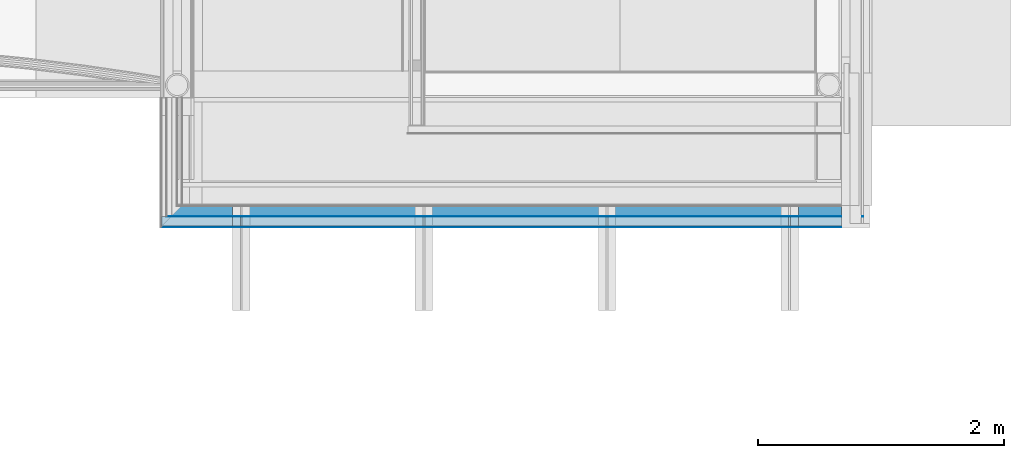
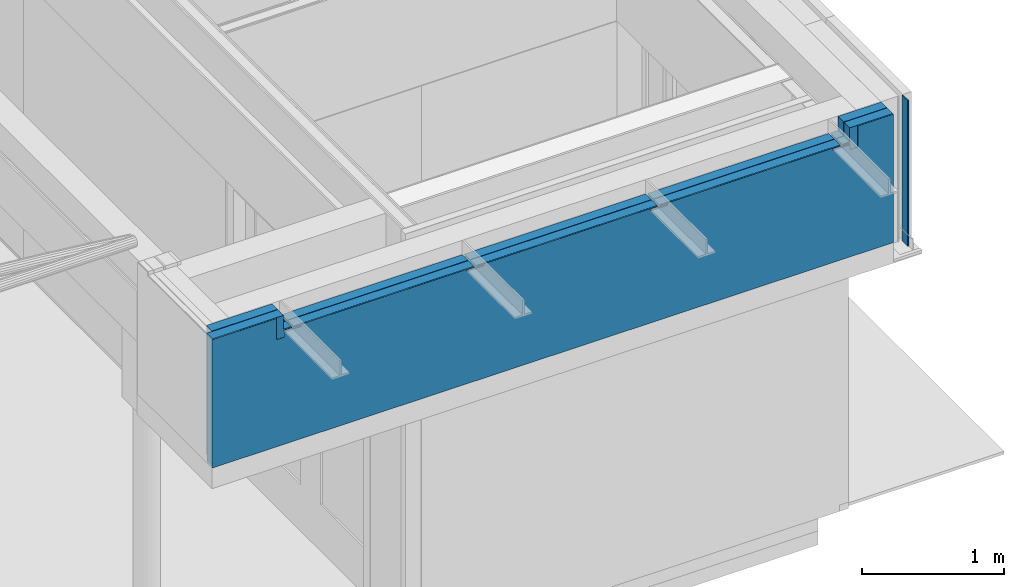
# One storey, part 63 of 165: 4 building element parts, 1 element without a shape of its own.
"""IFC2X3 building model written with IfcOpenShell, lengths in millimetres."""

from ifc_helpers import new_model, entity, si_unit, converted_unit, derived_unit, money_unit, direction, frame, origin_with_axes, place, context, subcontext, project, spatial, faceted_brep, material, type_object, element, aggregate, save


model = new_model("IFC2X3")

# Units and contexts
model_context = context("Model", 3, precision=0.01, world=origin_with_axes(), true_north=direction((0.0, 1.0)))
body_context = subcontext(model_context, "Body", "Model", "MODEL_VIEW")
ifc_project = project(units=[si_unit("LENGTHUNIT", "METRE", prefix="MILLI"), si_unit("AREAUNIT", "SQUARE_METRE"), si_unit("VOLUMEUNIT", "CUBIC_METRE"), converted_unit("PLANEANGLEUNIT", "DEGREE", entity("IfcPlaneAngleMeasure", 0.0174532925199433), si_unit("PLANEANGLEUNIT", "RADIAN"), dimensions=[0, 0, 0, 0, 0, 0, 0]), money_unit("EUR"), converted_unit("TIMEUNIT", "Year", entity("IfcTimeMeasure", 31556926.0), si_unit("TIMEUNIT", "SECOND"), dimensions=[0, 0, 1, 0, 0, 0, 0]), si_unit("MASSUNIT", "GRAM", prefix="KILO"), si_unit("THERMODYNAMICTEMPERATUREUNIT", "DEGREE_CELSIUS"), si_unit("LUMINOUSINTENSITYUNIT", "LUMEN"), si_unit("ENERGYUNIT", "JOULE", prefix="MEGA"), derived_unit("THERMALCONDUCTANCEUNIT", [(si_unit("POWERUNIT", "WATT"), 1), (si_unit("LENGTHUNIT", "METRE"), -1), (si_unit("THERMODYNAMICTEMPERATUREUNIT", "KELVIN"), -1)]), derived_unit("SPECIFICHEATCAPACITYUNIT", [(si_unit("ENERGYUNIT", "JOULE"), 1), (si_unit("MASSUNIT", "GRAM", prefix="KILO"), -1), (si_unit("THERMODYNAMICTEMPERATUREUNIT", "KELVIN"), -1)]), derived_unit("MASSDENSITYUNIT", [(si_unit("MASSUNIT", "GRAM", prefix="KILO"), 1), (si_unit("VOLUMEUNIT", "CUBIC_METRE"), -1)])], contexts=[model_context])

# Site, building, storey
site_placement = place(None, origin_with_axes())
site = spatial("IfcSite", under=ifc_project, at=site_placement, Name="Site", CompositionType="ELEMENT")
building_placement = place(site_placement, origin_with_axes())
building = spatial("IfcBuilding", under=site, at=building_placement, Name="Naam gebouw", CompositionType="ELEMENT")
storey_placement = place(building_placement, origin_with_axes())
storey = spatial("IfcBuildingStorey", under=building, at=storey_placement, Name="Begane grond", CompositionType="ELEMENT", Elevation=0.0)

# Wall, building element parts
wall_type = type_object("IfcWallType", Name="21 STO Buitengevelisolatie 160 390", PredefinedType="NOTDEFINED")
wall_placement = place(storey_placement, frame((29899.99999999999, 3599.999999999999, 2610.0), z_axis=(0.0, 0.0, 1.0), x_axis=(-1.0, 0.0, 0.0)))
wall = element("IfcWall", 1, at=wall_placement, inside=storey, type_object=wall_type, Name="21_Wand-x")
ifc_material_1 = material(Name="STO pleisterlaag")
building_element_part_1_placement = place(wall_placement, origin_with_axes())
building_element_part_1 = element("IfcBuildingElementPart", 2, at=building_element_part_1_placement, material=ifc_material_1, Name="STO pleisterlaag", context=body_context, shape_type="Brep", body=[
    faceted_brep([(0.0, 175.9999999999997, 1249.999999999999), (-2.235182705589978e-06, 176.0000000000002, 145.9999999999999), (-2.235182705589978e-06, 173.0000000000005, 145.9999999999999), (0.0, 172.9999967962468, 1249.999999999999), (5536.000960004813, 176.0000000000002, 1249.999999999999), (5536.001228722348, 176.0000000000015, 145.9999999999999), (286.999821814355, 176.0000000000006, 1249.999999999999), (286.999821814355, 176.0000000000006, 1067.0), (349.9998218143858, 176.0000000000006, 1067.0), (350.0000000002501, 176.0000000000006, 1110.000000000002), (490.0000000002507, 176.0000000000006, 1110.000000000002), (490.0000000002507, 176.0000000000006, 1125.000000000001), (427.5000000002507, 176.0000000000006, 1125.000000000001), (427.5000000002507, 176.0000000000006, 1130.0), (1897.50000000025, 176.0000000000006, 1130.0), (1897.50000000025, 176.0000000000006, 1125.000000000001), (1835.00000000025, 176.0000000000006, 1125.000000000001), (1835.00000000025, 176.0000000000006, 1110.000000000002), (1975.00000000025, 176.0000000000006, 1110.000000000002), (1975.00000000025, 176.0000000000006, 1125.000000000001), (1912.50000000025, 176.0000000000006, 1125.000000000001), (1912.50000000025, 176.0000000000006, 1130.0), (3387.500961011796, 176.0000000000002, 1130.0), (3387.500961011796, 176.0000000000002, 1125.000000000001), (3325.000961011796, 176.0000000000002, 1125.000000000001), (3325.000961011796, 176.0000000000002, 1110.000000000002), (3465.000961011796, 176.0000000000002, 1110.000000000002), (3465.000961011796, 176.0000000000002, 1125.000000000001), (3402.500961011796, 176.0000000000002, 1125.000000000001), (3402.500961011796, 176.0000000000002, 1130.0), (4872.500960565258, 176.0000000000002, 1130.0), (4872.500960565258, 176.0000000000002, 1125.000000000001), (4810.000960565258, 176.0000000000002, 1125.000000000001), (4810.000960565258, 176.0000000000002, 1110.000000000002), (4950.000960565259, 176.0000000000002, 1110.000000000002), (4950.000960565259, 176.0000000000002, 1067.0), (5013.000960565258, 176.0000000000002, 1067.0), (5013.000960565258, 176.0000000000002, 1249.999999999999), (5536.001228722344, 173.0000000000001, 145.9999999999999), (5533.001228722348, 173.0000000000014, 145.9999999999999), (5536.000960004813, 173.0000000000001, 1249.999999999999), (5013.000960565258, 173.0000000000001, 1249.999999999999), (5013.000960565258, 173.0000000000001, 1067.0), (4950.000960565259, 173.0000000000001, 1067.0), (4950.000960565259, 173.0000000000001, 1110.000000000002), (4810.000960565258, 173.0000000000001, 1110.000000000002), (4810.000960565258, 173.0000000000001, 1125.000000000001), (4872.500960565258, 173.0000000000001, 1125.000000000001), (4872.500960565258, 173.0000000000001, 1130.0), (3402.500961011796, 173.0000000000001, 1130.0), (3402.500961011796, 173.0000000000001, 1125.000000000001), (3465.000961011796, 173.0000000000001, 1125.000000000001), (3465.000961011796, 173.0000000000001, 1110.000000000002), (3325.000961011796, 173.0000000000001, 1110.000000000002), (3325.000961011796, 173.0000000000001, 1125.000000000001), (3387.500961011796, 173.0000000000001, 1125.000000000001), (3387.500961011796, 173.0000000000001, 1130.0), (1912.50000000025, 173.0000000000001, 1130.0), (1912.50000000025, 173.0000000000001, 1125.000000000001), (1975.00000000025, 173.0000000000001, 1125.000000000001), (1975.00000000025, 173.0000000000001, 1110.000000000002), (1835.00000000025, 173.0000000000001, 1110.000000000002), (1835.00000000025, 173.0000000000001, 1125.000000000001), (1897.50000000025, 173.0000000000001, 1125.000000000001), (1897.50000000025, 173.0000000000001, 1130.0), (427.5000000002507, 173.0000000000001, 1130.0), (427.5000000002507, 173.0000000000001, 1125.000000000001), (490.0000000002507, 173.0000000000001, 1125.000000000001), (490.0000000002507, 173.0000000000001, 1110.000000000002), (350.0000000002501, 173.0000000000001, 1110.000000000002), (349.9998248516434, 173.0000000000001, 1067.0), (286.9998248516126, 173.0000000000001, 1067.0), (286.9998248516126, 173.0000000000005, 1249.999999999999)], [[[0, 1, 2, 3]], [[4, 5, 1, 0, 6, 7, 8, 9, 10, 11, 12, 13, 14, 15, 16, 17, 18, 19, 20, 21, 22, 23, 24, 25, 26, 27, 28, 29, 30, 31, 32, 33, 34, 35, 36, 37]], [[38, 39, 2, 1, 5]], [[3, 2, 39, 38, 40, 41, 42, 43, 44, 45, 46, 47, 48, 49, 50, 51, 52, 53, 54, 55, 56, 57, 58, 59, 60, 61, 62, 63, 64, 65, 66, 67, 68, 69, 70, 71, 72]], [[3, 72, 6, 0]], [[4, 40, 38, 5]], [[71, 7, 6, 72]], [[70, 8, 7, 71]], [[69, 9, 8, 70]], [[9, 69, 68, 10]], [[68, 67, 11, 10]], [[67, 66, 12, 11]], [[66, 65, 13, 12]], [[13, 65, 64, 14]], [[14, 64, 63, 15]], [[63, 62, 16, 15]], [[62, 61, 17, 16]], [[61, 60, 18, 17]], [[60, 59, 19, 18]], [[59, 58, 20, 19]], [[58, 57, 21, 20]], [[56, 22, 21, 57]], [[22, 56, 55, 23]], [[55, 54, 24, 23]], [[54, 53, 25, 24]], [[53, 52, 26, 25]], [[52, 51, 27, 26]], [[51, 50, 28, 27]], [[50, 49, 29, 28]], [[48, 30, 29, 49]], [[30, 48, 47, 31]], [[47, 46, 32, 31]], [[46, 45, 33, 32]], [[45, 44, 34, 33]], [[34, 44, 43, 35]], [[36, 35, 43, 42]], [[37, 36, 42, 41]], [[40, 4, 37, 41]]]),
    faceted_brep([(4887.500960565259, 176.0000000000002, 1130.0), (4887.500960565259, 173.0000000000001, 1130.0), (4950.000960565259, 173.0000000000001, 1130.0), (4950.000960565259, 176.0000000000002, 1130.0), (4887.500960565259, 173.0000000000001, 1125.000000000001), (4887.500960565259, 176.0000000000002, 1125.000000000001), (4950.000960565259, 173.0000000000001, 1125.000000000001), (4950.000960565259, 176.0000000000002, 1125.000000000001)], [[[0, 1, 2, 3]], [[4, 1, 0, 5]], [[4, 6, 2, 1]], [[6, 7, 3, 2]], [[5, 0, 3, 7]], [[6, 4, 5, 7]]]),
    faceted_brep([(350.0000000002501, 176.0000000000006, 1125.000000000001), (350.0000000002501, 173.0000000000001, 1125.000000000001), (350.0000000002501, 173.0000000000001, 1130.0), (350.0000000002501, 176.0000000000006, 1130.0), (412.5000000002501, 173.0000000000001, 1125.000000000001), (412.5000000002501, 176.0000000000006, 1125.000000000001), (412.5000000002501, 173.0000000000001, 1130.0), (412.5000000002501, 176.0000000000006, 1130.0)], [[[0, 1, 2, 3]], [[4, 1, 0, 5]], [[4, 6, 2, 1]], [[6, 7, 3, 2]], [[5, 0, 3, 7]], [[7, 6, 4, 5]]]),
])
ifc_material_2 = material(Name="STO lijmlaag")
building_element_part_2_placement = place(wall_placement, origin_with_axes())
building_element_part_2 = element("IfcBuildingElementPart", 3, at=building_element_part_2_placement, material=ifc_material_2, Name="STO lijmlaag", context=body_context, shape_type="Brep", body=[
    faceted_brep([(0.0, 87.99999850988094, 1250.0), (-2.235182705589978e-06, 88.00000107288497, 145.9999999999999), (-2.235182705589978e-06, 84.00000000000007, 145.9999999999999), (0.0, 83.99999776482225, 1250.0), (5488.000960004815, 88.00000000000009, 145.9999999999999), (5448.001229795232, 88.00000107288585, 145.9999999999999), (350.0000000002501, 88.00000000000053, 1250.0), (350.0000000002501, 88.00000000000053, 1130.0), (412.5000000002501, 88.00000000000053, 1130.0), (412.5000000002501, 88.00000000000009, 1125.000000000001), (350.0000000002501, 88.00000000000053, 1125.000000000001), (350.0000000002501, 88.00000000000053, 1110.000000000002), (490.0000000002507, 88.00000000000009, 1110.000000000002), (490.0000000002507, 88.00000000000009, 1125.000000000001), (427.5000000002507, 88.00000000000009, 1125.000000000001), (427.5000000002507, 88.00000000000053, 1130.0), (1897.50000000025, 88.00000000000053, 1130.0), (1897.50000000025, 88.00000000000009, 1125.000000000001), (1835.00000000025, 88.00000000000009, 1125.000000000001), (1835.00000000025, 88.00000000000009, 1110.000000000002), (1975.00000000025, 88.00000000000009, 1110.000000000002), (1975.00000000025, 88.00000000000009, 1125.000000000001), (1912.50000000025, 88.00000000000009, 1125.000000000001), (1912.50000000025, 88.00000000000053, 1130.0), (3387.500961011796, 88.00000000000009, 1130.0), (3387.500961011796, 88.00000000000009, 1125.000000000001), (3325.000961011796, 88.00000000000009, 1125.000000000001), (3325.000961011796, 88.00000000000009, 1110.000000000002), (3465.000961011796, 88.00000000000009, 1110.000000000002), (3465.000961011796, 88.00000000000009, 1125.000000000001), (3402.500961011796, 88.00000000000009, 1125.000000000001), (3402.500961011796, 88.00000000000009, 1130.0), (4872.500960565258, 88.00000000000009, 1130.0), (4872.500960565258, 88.00000000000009, 1125.000000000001), (4810.000960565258, 88.00000000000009, 1125.000000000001), (4810.000960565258, 88.00000000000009, 1110.000000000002), (4950.000960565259, 88.00000000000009, 1110.000000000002), (4950.000960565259, 88.00000000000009, 1125.000000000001), (4887.500960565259, 88.00000000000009, 1125.000000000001), (4887.500960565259, 88.00000000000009, 1130.0), (4950.000960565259, 88.00000000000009, 1130.0), (4950.000960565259, 88.00000000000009, 1250.0), (5488.000960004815, 88.00000000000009, 1249.999999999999), (5488.000960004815, 84.00000000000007, 145.9999999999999), (5444.001228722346, 84.0000000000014, 145.9999999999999), (5488.000960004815, 84.00000000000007, 1249.999999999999), (4950.000960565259, 84.00000000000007, 1250.0), (4950.000960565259, 84.00000000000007, 1130.0), (4887.500960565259, 84.00000000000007, 1130.0), (4887.500960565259, 84.00000000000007, 1125.000000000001), (4950.000960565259, 84.00000000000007, 1125.000000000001), (4950.000960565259, 84.00000000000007, 1110.000000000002), (4810.000960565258, 84.00000000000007, 1110.000000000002), (4810.000960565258, 84.00000000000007, 1125.000000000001), (4872.500960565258, 84.00000000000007, 1125.000000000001), (4872.500960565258, 84.00000000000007, 1130.0), (3402.500961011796, 84.00000000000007, 1130.0), (3402.500961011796, 84.00000000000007, 1125.000000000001), (3465.000961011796, 84.00000000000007, 1125.000000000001), (3465.000961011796, 84.00000000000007, 1110.000000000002), (3325.000961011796, 84.00000000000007, 1110.000000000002), (3325.000961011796, 84.00000000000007, 1125.000000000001), (3387.500961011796, 84.00000000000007, 1125.000000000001), (3387.500961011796, 84.00000000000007, 1130.0), (1912.50000000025, 84.00000000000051, 1130.0), (1912.50000000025, 84.00000000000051, 1125.000000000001), (1975.00000000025, 84.00000000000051, 1125.000000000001), (1975.00000000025, 84.00000000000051, 1110.000000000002), (1835.00000000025, 84.00000000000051, 1110.000000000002), (1835.00000000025, 84.00000000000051, 1125.000000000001), (1897.50000000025, 84.00000000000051, 1125.000000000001), (1897.50000000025, 84.00000000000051, 1130.0), (427.5000000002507, 84.00000000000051, 1130.0), (427.5000000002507, 84.00000000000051, 1125.000000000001), (490.0000000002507, 84.00000000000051, 1125.000000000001), (490.0000000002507, 84.00000000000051, 1110.000000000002), (350.0000000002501, 84.00000000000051, 1110.000000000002), (350.0000000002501, 84.00000000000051, 1125.000000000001), (412.5000000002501, 84.00000000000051, 1125.000000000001), (412.5000000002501, 84.00000000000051, 1130.0), (350.0000000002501, 84.00000000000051, 1130.0), (350.0000000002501, 84.00000000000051, 1250.0)], [[[0, 1, 2, 3]], [[4, 5, 1, 0, 6, 7, 8, 9, 10, 11, 12, 13, 14, 15, 16, 17, 18, 19, 20, 21, 22, 23, 24, 25, 26, 27, 28, 29, 30, 31, 32, 33, 34, 35, 36, 37, 38, 39, 40, 41, 42]], [[43, 44, 2, 1, 5, 4]], [[3, 2, 44, 43, 45, 46, 47, 48, 49, 50, 51, 52, 53, 54, 55, 56, 57, 58, 59, 60, 61, 62, 63, 64, 65, 66, 67, 68, 69, 70, 71, 72, 73, 74, 75, 76, 77, 78, 79, 80, 81]], [[3, 81, 6, 0]], [[81, 80, 7, 6]], [[80, 79, 8, 7]], [[79, 78, 9, 8]], [[78, 77, 10, 9]], [[77, 76, 11, 10]], [[11, 76, 75, 12]], [[75, 74, 13, 12]], [[73, 14, 13, 74]], [[73, 72, 15, 14]], [[15, 72, 71, 16]], [[71, 70, 17, 16]], [[70, 69, 18, 17]], [[69, 68, 19, 18]], [[68, 67, 20, 19]], [[67, 66, 21, 20]], [[66, 65, 22, 21]], [[65, 64, 23, 22]], [[64, 63, 24, 23]], [[25, 24, 63, 62]], [[26, 25, 62, 61]], [[61, 60, 27, 26]], [[60, 59, 28, 27]], [[59, 58, 29, 28]], [[58, 57, 30, 29]], [[57, 56, 31, 30]], [[31, 56, 55, 32]], [[55, 54, 33, 32]], [[53, 34, 33, 54]], [[53, 52, 35, 34]], [[35, 52, 51, 36]], [[51, 50, 37, 36]], [[50, 49, 38, 37]], [[49, 48, 39, 38]], [[48, 47, 40, 39]], [[47, 46, 41, 40]], [[46, 45, 42, 41]], [[45, 43, 4, 42]]]),
    faceted_brep([(-169.9999999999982, 87.99999850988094, 1250.0), (-179.9999999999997, 87.99999737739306, 1250.0), (-179.9999999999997, 83.99999804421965, 1249.999999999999), (-169.9999999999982, 83.99999776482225, 1249.999999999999), (-169.9999999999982, 87.99999850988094, 1.203278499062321e-05), (-179.9999999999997, 87.99999737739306, 1.203278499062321e-05), (-179.9999999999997, 83.99999804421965, 1.203278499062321e-05), (-169.9999999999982, 83.99999776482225, 1.203278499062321e-05)], [[[0, 1, 2, 3]], [[4, 5, 1, 0]], [[5, 6, 2, 1]], [[3, 2, 6, 7]], [[4, 0, 3, 7]], [[7, 6, 5, 4]]]),
])
ifc_material_3 = material(Name="Isolatie - STO EPS")
building_element_part_3_placement = place(wall_placement, origin_with_axes())
building_element_part_3 = element("IfcBuildingElementPart", 4, at=building_element_part_3_placement, material=ifc_material_3, Name="Isolatie - STO EPS", context=body_context, shape_type="Brep", body=[
    faceted_brep([(0.0, 167.9999995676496, 1249.999999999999), (-2.235182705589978e-06, 168.0000000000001, 145.9999999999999), (-2.235182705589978e-06, 87.99999999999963, 145.9999999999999), (0.0, 87.99999884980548, 1250.0), (5528.000960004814, 168.0000000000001, 1249.999999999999), (5528.001228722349, 168.0000000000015, 145.9999999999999), (350.0000000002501, 168.0000000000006, 1250.0), (350.0000000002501, 168.0000000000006, 1130.0), (412.5000000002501, 168.0000000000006, 1130.0), (412.5000000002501, 168.0000000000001, 1125.000000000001), (350.0000000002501, 168.0000000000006, 1125.000000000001), (350.0000000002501, 168.0000000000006, 1110.000000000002), (490.0000000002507, 168.0000000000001, 1110.000000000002), (490.0000000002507, 168.0000000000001, 1125.000000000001), (427.5000000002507, 168.0000000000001, 1125.000000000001), (427.5000000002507, 168.0000000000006, 1130.0), (1897.50000000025, 168.0000000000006, 1130.0), (1897.50000000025, 168.0000000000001, 1125.000000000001), (1835.00000000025, 168.0000000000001, 1125.000000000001), (1835.00000000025, 168.0000000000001, 1110.000000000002), (1975.00000000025, 168.0000000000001, 1110.000000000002), (1975.00000000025, 168.0000000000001, 1125.000000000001), (1912.50000000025, 168.0000000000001, 1125.000000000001), (1912.50000000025, 168.0000000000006, 1130.0), (3387.500961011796, 168.0000000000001, 1130.0), (3387.500961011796, 168.0000000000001, 1125.000000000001), (3325.000961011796, 168.0000000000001, 1125.000000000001), (3325.000961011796, 168.0000000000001, 1110.000000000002), (3465.000961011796, 168.0000000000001, 1110.000000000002), (3465.000961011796, 168.0000000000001, 1125.000000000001), (3402.500961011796, 168.0000000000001, 1125.000000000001), (3402.500961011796, 168.0000000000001, 1130.0), (4872.500960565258, 168.0000000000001, 1130.0), (4872.500960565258, 168.0000000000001, 1125.000000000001), (4810.000960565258, 168.0000000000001, 1125.000000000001), (4810.000960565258, 168.0000000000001, 1110.000000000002), (4950.000960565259, 168.0000000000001, 1110.000000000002), (4950.000960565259, 168.0000000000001, 1125.000000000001), (4887.500960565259, 168.0000000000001, 1125.000000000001), (4887.500960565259, 168.0000000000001, 1130.0), (4950.000960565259, 168.0000000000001, 1130.0), (4950.000960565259, 168.0000000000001, 1250.0), (5528.001228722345, 88.00000000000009, 145.9999999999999), (5448.001228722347, 88.00000000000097, 145.9999999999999), (5528.000960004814, 88.00000000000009, 1249.999999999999), (4950.000960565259, 88.00000000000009, 1250.0), (4950.000960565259, 88.00000000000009, 1130.0), (4887.500960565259, 88.00000000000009, 1130.0), (4887.500960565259, 88.00000000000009, 1125.000000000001), (4950.000960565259, 88.00000000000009, 1125.000000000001), (4950.000960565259, 88.00000000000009, 1110.000000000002), (4810.000960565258, 88.00000000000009, 1110.000000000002), (4810.000960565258, 88.00000000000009, 1125.000000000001), (4872.500960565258, 88.00000000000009, 1125.000000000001), (4872.500960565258, 88.00000000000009, 1130.0), (3402.500961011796, 88.00000000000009, 1130.0), (3402.500961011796, 88.00000000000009, 1125.000000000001), (3465.000961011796, 88.00000000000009, 1125.000000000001), (3465.000961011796, 88.00000000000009, 1110.000000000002), (3325.000961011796, 88.00000000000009, 1110.000000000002), (3325.000961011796, 88.00000000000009, 1125.000000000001), (3387.500961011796, 88.00000000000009, 1125.000000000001), (3387.500961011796, 88.00000000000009, 1130.0), (1912.50000000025, 88.00000000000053, 1130.0), (1912.50000000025, 88.00000000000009, 1125.000000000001), (1975.00000000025, 88.00000000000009, 1125.000000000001), (1975.00000000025, 88.00000000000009, 1110.000000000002), (1835.00000000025, 88.00000000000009, 1110.000000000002), (1835.00000000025, 88.00000000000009, 1125.000000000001), (1897.50000000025, 88.00000000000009, 1125.000000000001), (1897.50000000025, 88.00000000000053, 1130.0), (427.5000000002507, 88.00000000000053, 1130.0), (427.5000000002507, 88.00000000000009, 1125.000000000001), (490.0000000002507, 88.00000000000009, 1125.000000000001), (490.0000000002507, 88.00000000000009, 1110.000000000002), (350.0000000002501, 88.00000000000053, 1110.000000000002), (350.0000000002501, 88.00000000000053, 1125.000000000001), (412.5000000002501, 88.00000000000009, 1125.000000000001), (412.5000000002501, 88.00000000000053, 1130.0), (350.0000000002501, 88.00000000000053, 1130.0), (350.0000000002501, 88.00000000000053, 1250.0)], [[[0, 1, 2, 3]], [[4, 5, 1, 0, 6, 7, 8, 9, 10, 11, 12, 13, 14, 15, 16, 17, 18, 19, 20, 21, 22, 23, 24, 25, 26, 27, 28, 29, 30, 31, 32, 33, 34, 35, 36, 37, 38, 39, 40, 41]], [[42, 43, 2, 1, 5]], [[3, 2, 43, 42, 44, 45, 46, 47, 48, 49, 50, 51, 52, 53, 54, 55, 56, 57, 58, 59, 60, 61, 62, 63, 64, 65, 66, 67, 68, 69, 70, 71, 72, 73, 74, 75, 76, 77, 78, 79, 80]], [[3, 80, 6, 0]], [[4, 44, 42, 5]], [[7, 6, 80, 79]], [[78, 8, 7, 79]], [[8, 78, 77, 9]], [[77, 76, 10, 9]], [[76, 75, 11, 10]], [[75, 74, 12, 11]], [[74, 73, 13, 12]], [[73, 72, 14, 13]], [[72, 71, 15, 14]], [[15, 71, 70, 16]], [[16, 70, 69, 17]], [[69, 68, 18, 17]], [[68, 67, 19, 18]], [[67, 66, 20, 19]], [[66, 65, 21, 20]], [[65, 64, 22, 21]], [[64, 63, 23, 22]], [[62, 24, 23, 63]], [[24, 62, 61, 25]], [[61, 60, 26, 25]], [[60, 59, 27, 26]], [[59, 58, 28, 27]], [[58, 57, 29, 28]], [[57, 56, 30, 29]], [[56, 55, 31, 30]], [[54, 32, 31, 55]], [[32, 54, 53, 33]], [[53, 52, 34, 33]], [[52, 51, 35, 34]], [[51, 50, 36, 35]], [[50, 49, 37, 36]], [[49, 48, 38, 37]], [[48, 47, 39, 38]], [[39, 47, 46, 40]], [[40, 46, 45, 41]], [[4, 41, 45, 44]]]),
])
building_element_part_4_placement = place(wall_placement, origin_with_axes())
building_element_part_4 = element("IfcBuildingElementPart", 5, at=building_element_part_4_placement, material=ifc_material_3, Name="Isolatie - STO EPS", context=body_context, shape_type="Brep", body=[
    faceted_brep([(0.0, 83.99999999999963, 1249.999999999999), (-2.235182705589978e-06, 84.00000000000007, 145.9999999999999), (-2.235182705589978e-06, 3.999999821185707, 145.9999999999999), (0.0, 3.999999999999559, 1250.0), (5484.000960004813, 84.00000000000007, 145.9999999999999), (5444.001228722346, 84.0000000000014, 145.9999999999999), (350.0000000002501, 84.00000000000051, 1250.0), (350.0000000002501, 84.00000000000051, 1130.0), (412.5000000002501, 84.00000000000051, 1130.0), (412.5000000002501, 84.00000000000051, 1125.000000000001), (350.0000000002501, 84.00000000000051, 1125.000000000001), (350.0000000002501, 84.00000000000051, 1110.000000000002), (490.0000000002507, 84.00000000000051, 1110.000000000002), (490.0000000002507, 84.00000000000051, 1125.000000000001), (427.5000000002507, 84.00000000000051, 1125.000000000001), (427.5000000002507, 84.00000000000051, 1130.0), (1897.50000000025, 84.00000000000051, 1130.0), (1897.50000000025, 84.00000000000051, 1125.000000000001), (1835.00000000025, 84.00000000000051, 1125.000000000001), (1835.00000000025, 84.00000000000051, 1110.000000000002), (1975.00000000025, 84.00000000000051, 1110.000000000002), (1975.00000000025, 84.00000000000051, 1125.000000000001), (1912.50000000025, 84.00000000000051, 1125.000000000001), (1912.50000000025, 84.00000000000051, 1130.0), (3387.500961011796, 84.00000000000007, 1130.0), (3387.500961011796, 84.00000000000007, 1125.000000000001), (3325.000961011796, 84.00000000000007, 1125.000000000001), (3325.000961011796, 84.00000000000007, 1110.000000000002), (3465.000961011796, 84.00000000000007, 1110.000000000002), (3465.000961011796, 84.00000000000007, 1125.000000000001), (3402.500961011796, 84.00000000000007, 1125.000000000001), (3402.500961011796, 84.00000000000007, 1130.0), (4872.500960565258, 84.00000000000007, 1130.0), (4872.500960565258, 84.00000000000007, 1125.000000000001), (4810.000960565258, 84.00000000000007, 1125.000000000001), (4810.000960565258, 84.00000000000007, 1110.000000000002), (4950.000960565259, 84.00000000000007, 1110.000000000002), (4950.000960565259, 84.00000000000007, 1125.000000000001), (4887.500960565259, 84.00000000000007, 1125.000000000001), (4887.500960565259, 84.00000000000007, 1130.0), (4950.000960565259, 84.00000000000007, 1130.0), (4950.000960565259, 84.00000000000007, 1250.0), (5484.000960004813, 84.00000000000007, 1249.999999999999), (5484.000960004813, 4.000000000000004, 145.9999999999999), (5364.001228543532, 3.999999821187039, 145.9999999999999), (5484.000960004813, 4.000000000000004, 1249.999999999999), (4950.000960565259, 4.000000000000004, 1250.0), (4950.000960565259, 4.000000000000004, 1130.0), (4887.500960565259, 4.000000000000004, 1130.0), (4887.500960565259, 4.000000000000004, 1125.000000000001), (4950.000960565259, 4.000000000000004, 1125.000000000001), (4950.000960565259, 4.000000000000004, 1110.000000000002), (4810.000960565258, 4.000000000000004, 1110.000000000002), (4810.000960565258, 4.000000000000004, 1125.000000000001), (4872.500960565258, 4.000000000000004, 1125.000000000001), (4872.500960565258, 4.000000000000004, 1130.0), (3402.500961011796, 4.000000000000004, 1130.0), (3402.500961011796, 4.000000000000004, 1125.000000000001), (3465.000961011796, 4.000000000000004, 1125.000000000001), (3465.000961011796, 4.000000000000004, 1110.000000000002), (3325.000961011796, 4.000000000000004, 1110.000000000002), (3325.000961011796, 4.000000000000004, 1125.000000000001), (3387.500961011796, 4.000000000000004, 1125.000000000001), (3387.500961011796, 4.000000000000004, 1130.0), (1912.50000000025, 4.000000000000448, 1130.0), (1912.50000000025, 4.000000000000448, 1125.000000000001), (1975.00000000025, 4.000000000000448, 1125.000000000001), (1975.00000000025, 4.000000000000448, 1110.000000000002), (1835.00000000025, 4.000000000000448, 1110.000000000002), (1835.00000000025, 4.000000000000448, 1125.000000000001), (1897.50000000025, 4.000000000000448, 1125.000000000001), (1897.50000000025, 4.000000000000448, 1130.0), (427.5000000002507, 4.000000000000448, 1130.0), (427.5000000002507, 4.000000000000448, 1125.000000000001), (490.0000000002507, 4.000000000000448, 1125.000000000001), (490.0000000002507, 4.000000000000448, 1110.000000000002), (350.0000000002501, 4.000000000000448, 1110.000000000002), (350.0000000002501, 4.000000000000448, 1125.000000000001), (412.5000000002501, 4.000000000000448, 1125.000000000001), (412.5000000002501, 4.000000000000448, 1130.0), (350.0000000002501, 4.000000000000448, 1130.0), (350.0000000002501, 4.000000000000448, 1250.0)], [[[0, 1, 2, 3]], [[4, 5, 1, 0, 6, 7, 8, 9, 10, 11, 12, 13, 14, 15, 16, 17, 18, 19, 20, 21, 22, 23, 24, 25, 26, 27, 28, 29, 30, 31, 32, 33, 34, 35, 36, 37, 38, 39, 40, 41, 42]], [[43, 44, 2, 1, 5, 4]], [[3, 2, 44, 43, 45, 46, 47, 48, 49, 50, 51, 52, 53, 54, 55, 56, 57, 58, 59, 60, 61, 62, 63, 64, 65, 66, 67, 68, 69, 70, 71, 72, 73, 74, 75, 76, 77, 78, 79, 80, 81]], [[3, 81, 6, 0]], [[7, 6, 81, 80]], [[79, 8, 7, 80]], [[8, 79, 78, 9]], [[78, 77, 10, 9]], [[77, 76, 11, 10]], [[76, 75, 12, 11]], [[75, 74, 13, 12]], [[74, 73, 14, 13]], [[73, 72, 15, 14]], [[15, 72, 71, 16]], [[16, 71, 70, 17]], [[70, 69, 18, 17]], [[69, 68, 19, 18]], [[68, 67, 20, 19]], [[67, 66, 21, 20]], [[66, 65, 22, 21]], [[65, 64, 23, 22]], [[63, 24, 23, 64]], [[24, 63, 62, 25]], [[62, 61, 26, 25]], [[61, 60, 27, 26]], [[60, 59, 28, 27]], [[59, 58, 29, 28]], [[58, 57, 30, 29]], [[57, 56, 31, 30]], [[55, 32, 31, 56]], [[32, 55, 54, 33]], [[54, 53, 34, 33]], [[53, 52, 35, 34]], [[52, 51, 36, 35]], [[51, 50, 37, 36]], [[50, 49, 38, 37]], [[49, 48, 39, 38]], [[39, 48, 47, 40]], [[40, 47, 46, 41]], [[42, 41, 46, 45]], [[42, 45, 43, 4]]]),
    faceted_brep([(-179.9999999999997, 4.000000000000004, 1.203278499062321e-05), (-169.9999999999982, 3.999999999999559, 1.203278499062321e-05), (-169.9999999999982, 3.999999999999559, 1249.999999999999), (-179.9999999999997, 4.000000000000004, 1249.999999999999), (-179.9999999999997, 84.00000000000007, 1.203278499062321e-05), (-169.9999999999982, 83.99999999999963, 1.203278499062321e-05), (-169.9999999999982, 83.99999999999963, 1249.999999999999), (-179.9999999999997, 84.00000000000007, 1249.999999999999)], [[[0, 1, 2, 3]], [[4, 5, 1, 0]], [[5, 6, 2, 1]], [[3, 2, 6, 7]], [[4, 0, 3, 7]], [[7, 6, 5, 4]]]),
])
aggregate(wall, [building_element_part_1, building_element_part_2, building_element_part_3, building_element_part_4])

save(model, "model.ifc")
